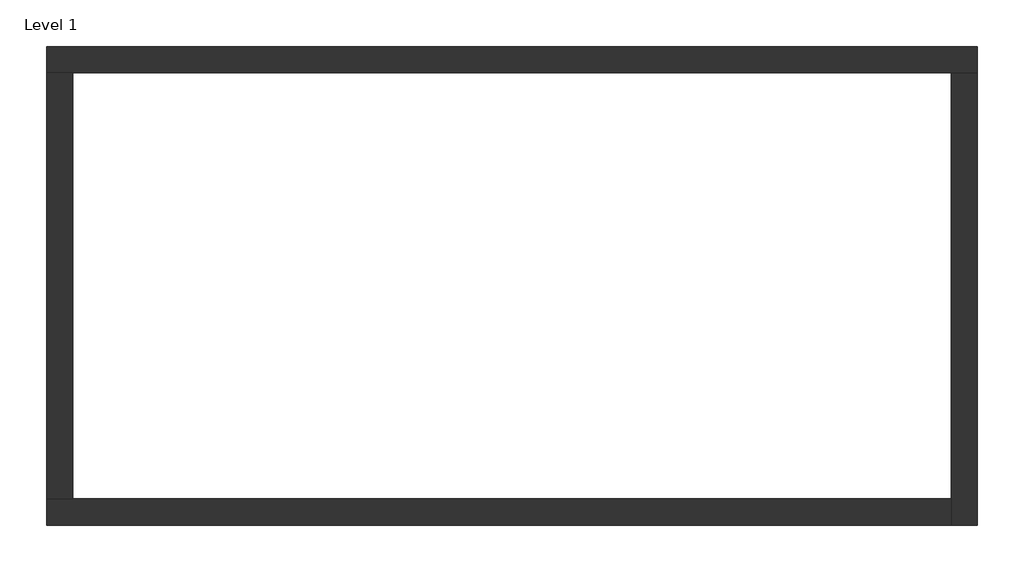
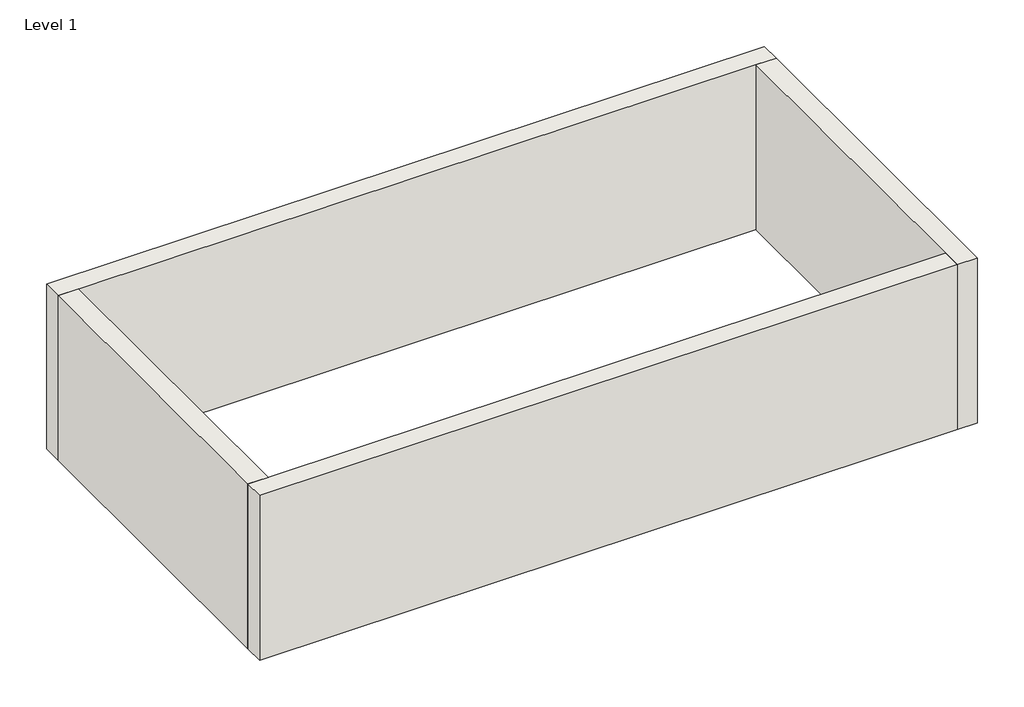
# One storey: 4 walls.
"""IFC4 building model written with IfcOpenShell, lengths in millimetres."""

import ifcopenshell
import ifcopenshell.guid

model = None  # the IFC model being written
_history = None  # IfcOwnerHistory: only IFC2X3 demands one
_inside = {}  # id of a spatial element -> (the spatial element, [elements in it])
_under = {}  # id of a project, library or spatial element -> (it, [spatial elements below it])
_declared = {}  # id of a project -> (the project, [libraries it declares])
_typed = {}  # id of a type object -> (the type object, [elements of that type])
_made_of = {}  # id of a material, layer set ... -> (it, [elements and type objects made of it])


def new_model(schema):
    """Start an empty IFC model of exactly this schema.

    Asked for "IFC4X3", IfcOpenShell would pick the latest addendum, in which some entities
    have other attributes; the version numbers below select the first issue.
    IFC2X3 requires an IfcOwnerHistory on every rooted entity: one is made here for all.
    """
    global model, _history
    if schema == "IFC4X3":
        model = ifcopenshell.file(schema_version=(4, 3, 0, 0))
    else:
        model = ifcopenshell.file(schema=schema)
    _inside.clear()
    _under.clear()
    _declared.clear()
    _typed.clear()
    _made_of.clear()
    _history = None
    if model.schema == "IFC2X3":
        org = make("IfcOrganization", Name="unknown")
        user = make(
            "IfcPersonAndOrganization",
            ThePerson=make("IfcPerson", FamilyName="unknown"),
            TheOrganization=org,
        )
        app = make(
            "IfcApplication",
            ApplicationDeveloper=org,
            Version="unknown",
            ApplicationFullName="unknown",
            ApplicationIdentifier="unknown",
        )
        _history = make(
            "IfcOwnerHistory",
            OwningUser=user,
            OwningApplication=app,
            ChangeAction="ADDED",
            CreationDate=0,
        )
    return model


def make(cls, **values):
    """One entity of the class cls with the attributes given. An attribute that is None is left unset."""
    return model.create_entity(
        cls, **{name: value for name, value in values.items() if value is not None}
    )


def rooted(cls, **values):
    """An entity with a GlobalId (a new one), such as an element, a storey or a relation."""
    return make(cls, GlobalId=ifcopenshell.guid.new(), OwnerHistory=_history, **values)


def si_unit(unit_type, name, prefix=None):
    """IfcSIUnit, for example si_unit("LENGTHUNIT", "METRE", prefix="MILLI")."""
    return make("IfcSIUnit", UnitType=unit_type, Prefix=prefix, Name=name)


def assignment(units):
    """IfcUnitAssignment: the units of a project."""
    return None if units is None else make("IfcUnitAssignment", Units=units)


def point(xyz):
    """IfcCartesianPoint."""
    return None if xyz is None else make("IfcCartesianPoint", Coordinates=xyz)


def direction(xyz):
    """IfcDirection."""
    return None if xyz is None else make("IfcDirection", DirectionRatios=xyz)


def frame(location, z_axis=None, x_axis=None):
    """IfcAxis2Placement3D, a coordinate frame: its origin and axes. An axis left out is left unset."""
    return make(
        "IfcAxis2Placement3D",
        Location=point(location),
        Axis=direction(z_axis),
        RefDirection=direction(x_axis),
    )


def origin():
    """The frame at (0, 0, 0) with its axes left unset."""
    return frame((0.0, 0.0, 0.0))


def origin_with_axes():
    """The frame at (0, 0, 0) with the z axis (0, 0, 1) and the x axis (1, 0, 0) written out."""
    return frame((0.0, 0.0, 0.0), z_axis=(0.0, 0.0, 1.0), x_axis=(1.0, 0.0, 0.0))


def place(relative_to, where):
    """IfcLocalPlacement: puts the frame where relative to a parent placement (None: the world)."""
    return make(
        "IfcLocalPlacement", PlacementRelTo=relative_to, RelativePlacement=where
    )


def context(
    kind, dimensions, precision=None, world=None, true_north=None, identifier=None
):
    """IfcGeometricRepresentationContext, for example the 3D "Model" context."""
    return make(
        "IfcGeometricRepresentationContext",
        ContextIdentifier=identifier,
        ContextType=kind,
        CoordinateSpaceDimension=dimensions,
        Precision=precision,
        WorldCoordinateSystem=world,
        TrueNorth=true_north,
    )


def project(units=None, contexts=None):
    """IfcProject with its units and contexts."""
    return rooted(
        "IfcProject",
        Name="project",
        RepresentationContexts=contexts,
        UnitsInContext=assignment(units),
    )


def spatial(cls, under=None, at=None, **own):
    """A site, building, storey or space (cls), placed at a placement, below another one or the project."""
    s = rooted(cls, ObjectPlacement=at, **own)
    if under is not None:
        _under.setdefault(under.id(), (under, []))[1].append(s)
    return s


def polyline(points):
    """IfcPolyline through the points."""
    return make("IfcPolyline", Points=[point(p) for p in points])


def outline(outer, holes=None, kind="AREA"):
    """IfcArbitraryClosedProfileDef: a profile drawn as a closed curve; with holes, ...WithVoids."""
    if holes is None:
        return make("IfcArbitraryClosedProfileDef", ProfileType=kind, OuterCurve=outer)
    return make(
        "IfcArbitraryProfileDefWithVoids",
        ProfileType=kind,
        OuterCurve=outer,
        InnerCurves=holes,
    )


def extrude(swept, where, along, depth):
    """IfcExtrudedAreaSolid: the profile swept, set in the frame where, extruded along a direction by depth."""
    return make(
        "IfcExtrudedAreaSolid",
        SweptArea=swept,
        Position=where,
        ExtrudedDirection=direction(along),
        Depth=depth,
    )


def faces_of(points, faces, orient=None, outer=None):
    """IfcFace entities. A face is a list of loops; a loop is a list of indices into points, from 0.

    orient and outer hold one flag for each loop. By default every Orientation is true, the
    first loop of a face is its IfcFaceOuterBound and the others are IfcFaceBound.
    """
    made = []
    for i, loops in enumerate(faces):
        bounds = []
        for j, loop in enumerate(loops):
            is_outer = j == 0 if outer is None else outer[i][j]
            bounds.append(
                make(
                    "IfcFaceOuterBound" if is_outer else "IfcFaceBound",
                    Bound=make("IfcPolyLoop", Polygon=[points[k] for k in loop]),
                    Orientation=True if orient is None else orient[i][j],
                )
            )
        made.append(make("IfcFace", Bounds=bounds))
    return made


def faceted_brep(points, faces, orient=None, outer=None, voids=None):
    """IfcFacetedBrep: a solid bounded by flat faces; with voids (closed shells), ...WithVoids."""
    shared = [point(p) for p in points]
    hull = make("IfcClosedShell", CfsFaces=faces_of(shared, faces, orient, outer))
    if voids is None:
        return make("IfcFacetedBrep", Outer=hull)
    return make(
        "IfcFacetedBrepWithVoids",
        Outer=hull,
        Voids=[
            make(cls, CfsFaces=faces_of(shared, fs, o, b)) for cls, fs, o, b in voids
        ],
    )


def shape(context_of_items, identifier, shape_type, items):
    """IfcShapeRepresentation: the items that make up one representation, for example the "Body"."""
    return make(
        "IfcShapeRepresentation",
        ContextOfItems=context_of_items,
        RepresentationIdentifier=identifier,
        RepresentationType=shape_type,
        Items=items,
    )


def made_of(thing, what):
    """Note that an element or type object is made of a material, layer set ...; save() writes the relation."""
    if what is not None:
        _made_of.setdefault(what.id(), (what, []))[1].append(thing)
    return thing


def element(
    cls,
    number,
    at=None,
    inside=None,
    cuts=None,
    type_object=None,
    material=None,
    context=None,
    identifier="Body",
    shape_type=None,
    held_by="IfcProductDefinitionShape",
    body=None,
    shapes=None,
    **own,
):
    """One element of the class cls, such as IfcWall. Its Tag is "e" and its number.

    at: its placement. inside: the storey or other place that contains it. cuts: it is an
    opening in that element (IfcRelVoidsElement). A single representation is given by context,
    identifier, shape_type and body (its items); several are given by shapes. held_by: the class
    of the entity that holds the representations. save() writes the other relations.
    """
    e = rooted(cls, Tag="e%d" % number, ObjectPlacement=at, **own)
    if body is not None:
        shapes = [shape(context, identifier, shape_type, body)]
    if shapes is not None:
        e.Representation = make(held_by, Representations=shapes)
    if inside is not None:
        _inside.setdefault(inside.id(), (inside, []))[1].append(e)
    if cuts is not None:
        rooted(
            "IfcRelVoidsElement", RelatingBuildingElement=cuts, RelatedOpeningElement=e
        )
    if type_object is not None:
        _typed.setdefault(type_object.id(), (type_object, []))[1].append(e)
    return made_of(e, material)


def aggregate(whole, parts):
    """IfcRelAggregates: a whole, such as a stair, and the parts it consists of."""
    return rooted("IfcRelAggregates", RelatingObject=whole, RelatedObjects=parts)


def save(model, path):
    """Write the relations noted so far, then the file.

    IfcRelAggregates (storeys below a building ...), IfcRelContainedInSpatialStructure (elements
    in a storey), IfcRelDefinesByType, IfcRelAssociatesMaterial and IfcRelDeclares: one each for
    every whole, place, type object, material and project.
    """
    for whole, parts in _under.values():
        aggregate(whole, parts)
    for where, things in _inside.values():
        rooted(
            "IfcRelContainedInSpatialStructure",
            RelatedElements=things,
            RelatingStructure=where,
        )
    for kind, things in _typed.values():
        rooted("IfcRelDefinesByType", RelatedObjects=things, RelatingType=kind)
    for what, things in _made_of.values():
        rooted("IfcRelAssociatesMaterial", RelatedObjects=things, RelatingMaterial=what)
    for by, libraries in _declared.values():
        rooted("IfcRelDeclares", RelatingContext=by, RelatedDefinitions=libraries)
    model.write(path)


model = new_model("IFC4")

# Units and contexts
model_context = context("Model", 3, world=origin())
ifc_project = project(units=[si_unit("LENGTHUNIT", "METRE", prefix="MILLI")], contexts=[model_context])

# Site, building, storey
site = spatial("IfcSite", under=ifc_project)
building = spatial("IfcBuilding", under=site)
storey = spatial("IfcBuildingStorey", under=building, Name="Level 1", Elevation=0.0)

# Walls
placement = place(None, origin())
element("IfcWall", 1, ObjectType="Exterior - Brick on Mtl. Stud", at=placement, inside=storey, context=model_context, shape_type="Brep", body=[
    faceted_brep([(-19116.5969712, 7611.6441174, 0.0), (-18764.1719712, 7611.6441174, 0.0), (-6924.5969712, 7611.6441174, 0.0), (-6572.1719712, 7611.6441174, 0.0), (-6572.1719712, 7611.6441174, 3048.0), (-6924.5969712, 7611.6441174, 3048.0), (-18764.1719712, 7611.6441174, 3048.0), (-19116.5969712, 7611.6441174, 3048.0), (-19116.5969712, 7964.0691174, 0.0), (-19116.5969712, 7964.0691174, 3048.0), (-6572.1719712, 7964.0691174, 3048.0), (-6572.1719712, 7964.0691174, 0.0)], [[[0, 1, 2, 3, 4, 5, 6, 7]], [[8, 9, 10, 11]], [[3, 2, 1, 0, 8, 11]], [[7, 6, 5, 4, 10, 9]], [[4, 3, 11, 10]], [[0, 7, 9, 8]]]),
])
element("IfcWall", 2, ObjectType="Exterior - Brick on Mtl. Stud", at=placement, inside=storey, context=model_context, shape_type="Brep", body=[
    faceted_brep([(-6924.5969712, 7611.6441174, 0.0), (-6924.5969712, 1868.0691174, 0.0), (-6924.5969712, 1515.6441174, 0.0), (-6924.5969712, 1515.6441174, 3048.0), (-6924.5969712, 1868.0691174, 3048.0), (-6924.5969712, 7611.6441174, 3048.0), (-6572.1719712, 7611.6441174, 0.0), (-6572.1719712, 7611.6441174, 3048.0), (-6572.1719712, 1515.6441174, 3048.0), (-6572.1719712, 1515.6441174, 0.0)], [[[0, 1, 2, 3, 4, 5]], [[6, 7, 8, 9]], [[2, 1, 0, 6, 9]], [[5, 4, 3, 8, 7]], [[0, 5, 7, 6]], [[3, 2, 9, 8]]]),
])
element("IfcWall", 3, ObjectType="Exterior - Brick on Mtl. Stud", at=placement, inside=storey, context=model_context, shape_type="Brep", body=[
    faceted_brep([(-6924.5969712, 1868.0691174, 0.0), (-18764.1719712, 1868.0691174, 0.0), (-19116.5969712, 1868.0691174, 0.0), (-19116.5969712, 1868.0691174, 3048.0), (-18764.1719712, 1868.0691174, 3048.0), (-6924.5969712, 1868.0691174, 3048.0), (-6924.5969712, 1515.6441174, 0.0), (-6924.5969712, 1515.6441174, 3048.0), (-19116.5969712, 1515.6441174, 3048.0), (-19116.5969712, 1515.6441174, 0.0)], [[[0, 1, 2, 3, 4, 5]], [[6, 7, 8, 9]], [[2, 1, 0, 6, 9]], [[5, 4, 3, 8, 7]], [[0, 5, 7, 6]], [[3, 2, 9, 8]]]),
])
element("IfcWall", 4, ObjectType="Exterior - Brick on Mtl. Stud", at=placement, inside=storey, context=model_context, shape_type="SweptSolid", body=[
    extrude(outline(polyline([(-18764.1719712, 7611.6441174), (-18764.1719712, 1868.0691174), (-19116.5969712, 1868.0691174), (-19116.5969712, 7611.6441174), (-18764.1719712, 7611.6441174)])), origin_with_axes(), (0.0, 0.0, 1.0), 3048.0),
])

save(model, "model.ifc")
